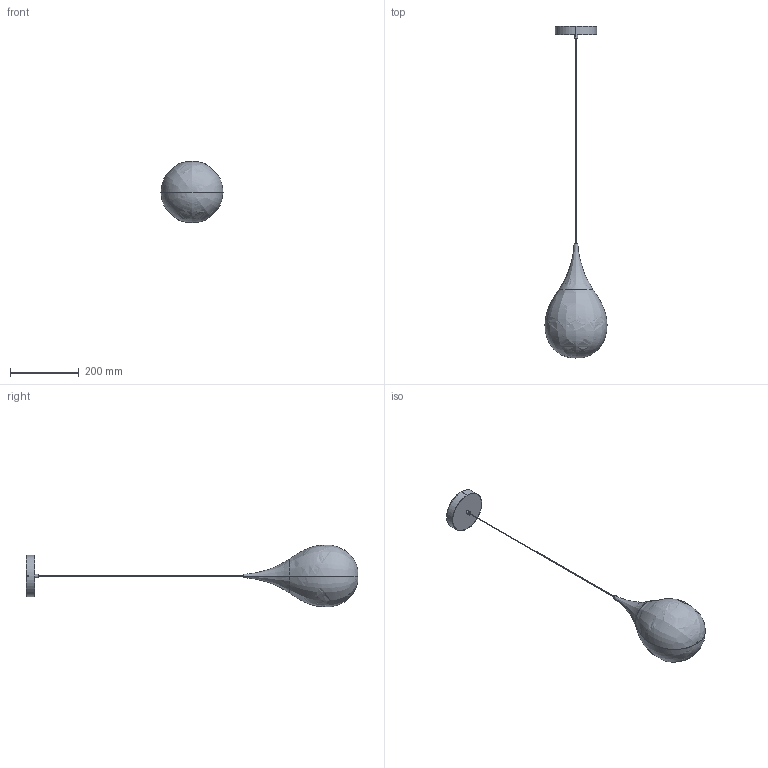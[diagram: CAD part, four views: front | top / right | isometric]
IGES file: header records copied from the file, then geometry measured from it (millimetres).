
Start section: SolidWorks IGES file using analytic representation for surfaces
Global section: file name: F:\燠隴矨\3D\2025-6\Marble Raindrop Pendant Light.IGS,15; native system: HSolidWorks 2022; preprocessor: SolidWorks 2022; author: MyPC; date: 250615.100633; units: millimetre
Bounding box: 181.37 x 969.1 x 179.25 mm (x, y, z)
Surface area: 321375.5 mm2 (no closed solid volume)
Topology: 0 solids, 0 shells, 116 faces, 1518 edges, 1511 vertices
Faces by surface type: revolution 62, bspline 54
